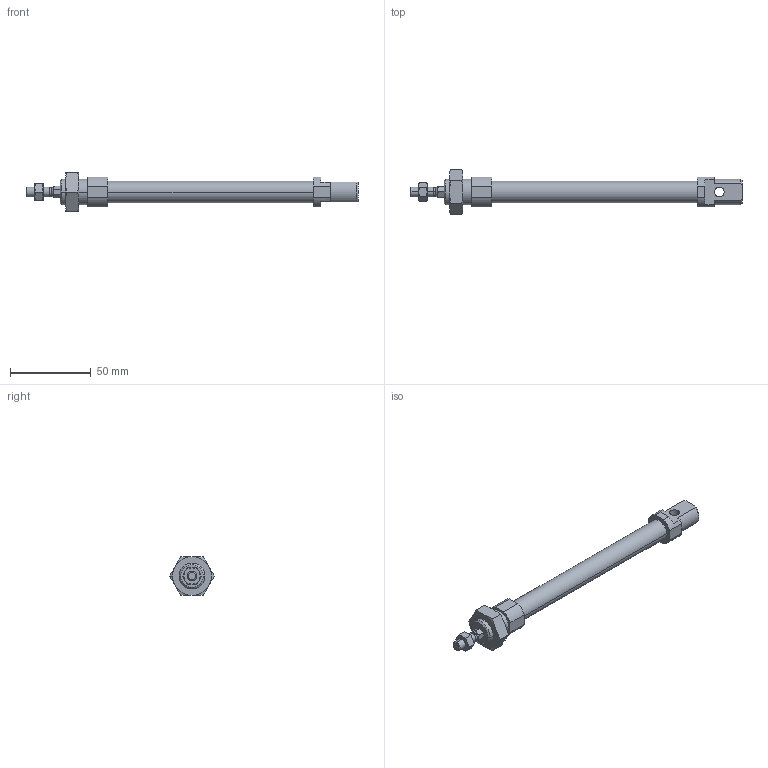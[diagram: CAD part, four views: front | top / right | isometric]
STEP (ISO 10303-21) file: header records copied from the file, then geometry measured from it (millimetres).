
FILE_DESCRIPTION (( 'STEP AP203' ), '1' );
FILE_NAME ('CSMK12-100.STEP', '2020-04-02T10:43:01', ( '' ), ( '' ), 'SwSTEP 2.0', 'SolidWorks 2019', '' );
FILE_SCHEMA (( 'CONFIG_CONTROL_DESIGN' ));
Length unit declared in the file: millimetre
Products named in the file (1): CSMK12-100
Bounding box: 205 x 27.71 x 24 mm (x, y, z)
Volume: 25038.2 mm3; surface area: 19820.7 mm2
Topology: 4 solids, 4 shells, 135 faces, 310 edges, 189 vertices
Faces by surface type: plane 53, cone 50, cylinder 32
Entity records: 4287 total; most frequent: CARTESIAN_POINT 1185, DIRECTION 636, ORIENTED_EDGE 616, EDGE_CURVE 308, AXIS2_PLACEMENT_3D 250, VERTEX_POINT 189, EDGE_LOOP 151, VECTOR 136
